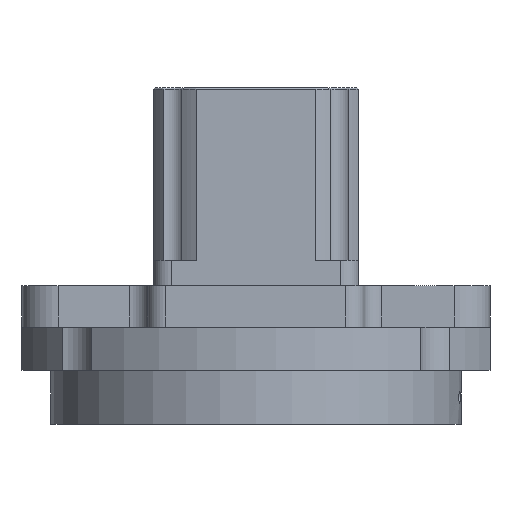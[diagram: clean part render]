
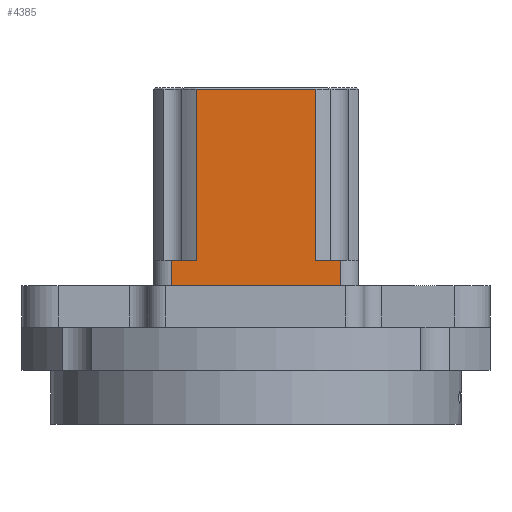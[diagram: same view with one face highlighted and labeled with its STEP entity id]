
A CAD part, front view. The second image highlights one B-rep face of the part: STEP entity #4385.
In plain terms, the highlighted planar face has unit normal (0, -1, 0).
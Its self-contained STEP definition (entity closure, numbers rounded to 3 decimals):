
#141 = DIRECTION ( 'NONE',  ( 0., 1., 0. ) ) ;
#247 = LINE ( 'NONE', #6588, #4882 ) ;
#417 = LINE ( 'NONE', #8116, #2297 ) ;
#430 = ORIENTED_EDGE ( 'NONE', *, *, #7271, .F. ) ;
#455 = CARTESIAN_POINT ( 'NONE',  ( 14.592, -94.689, 167.95 ) ) ;
#913 = ORIENTED_EDGE ( 'NONE', *, *, #5422, .T. ) ;
#1682 = LINE ( 'NONE', #8109, #11250 ) ;
#1706 = FACE_OUTER_BOUND ( 'NONE', #7299, .T. ) ;
#1965 = VECTOR ( 'NONE', #8747, 1000. ) ;
#2025 = VECTOR ( 'NONE', #11984, 1000. ) ;
#2120 = CARTESIAN_POINT ( 'NONE',  ( -37.408, -94.689, 176.45 ) ) ;
#2170 = VERTEX_POINT ( 'NONE', #7085 ) ;
#2224 = CARTESIAN_POINT ( 'NONE',  ( 14.592, -94.689, 169.45 ) ) ;
#2297 = VECTOR ( 'NONE', #2541, 1000. ) ;
#2541 = DIRECTION ( 'NONE',  ( 0., 0., 1. ) ) ;
#2809 = CARTESIAN_POINT ( 'NONE',  ( -25.544, -94.689, 223.95 ) ) ;
#2958 = LINE ( 'NONE', #7424, #2025 ) ;
#3108 = CARTESIAN_POINT ( 'NONE',  ( -37.408, -94.689, 176.45 ) ) ;
#3501 = DIRECTION ( 'NONE',  ( -1., 0., 0. ) ) ;
#4058 = VECTOR ( 'NONE', #8670, 1000. ) ;
#4348 = EDGE_CURVE ( 'NONE', #5046, #6329, #417, .T. ) ;
#4385 = ADVANCED_FACE ( 'NONE', ( #1706 ), #11223, .F. ) ;
#4438 = ORIENTED_EDGE ( 'NONE', *, *, #4490, .F. ) ;
#4490 = EDGE_CURVE ( 'NONE', #2170, #5046, #10694, .T. ) ;
#4882 = VECTOR ( 'NONE', #5660, 1000. ) ;
#4903 = VERTEX_POINT ( 'NONE', #7269 ) ;
#5046 = VERTEX_POINT ( 'NONE', #10182 ) ;
#5112 = EDGE_CURVE ( 'NONE', #11619, #7165, #247, .T. ) ;
#5422 = EDGE_CURVE ( 'NONE', #8367, #6329, #1682, .T. ) ;
#5660 = DIRECTION ( 'NONE',  ( -1., 0., 0. ) ) ;
#5670 = CARTESIAN_POINT ( 'NONE',  ( -37.408, -94.689, 167.95 ) ) ;
#5726 = CARTESIAN_POINT ( 'NONE',  ( -32.408, -94.689, 169.45 ) ) ;
#5919 = EDGE_CURVE ( 'NONE', #2170, #7165, #7478, .T. ) ;
#5948 = CARTESIAN_POINT ( 'NONE',  ( -32.408, -94.689, 167.95 ) ) ;
#6329 = VERTEX_POINT ( 'NONE', #2809 ) ;
#6394 = ORIENTED_EDGE ( 'NONE', *, *, #4348, .F. ) ;
#6514 = EDGE_CURVE ( 'NONE', #11619, #8667, #11496, .T. ) ;
#6588 = CARTESIAN_POINT ( 'NONE',  ( -37.408, -94.689, 169.45 ) ) ;
#6604 = DIRECTION ( 'NONE',  ( 1., 0., 0. ) ) ;
#6721 = DIRECTION ( 'NONE',  ( 1., 0., 0. ) ) ;
#7033 = ORIENTED_EDGE ( 'NONE', *, *, #10437, .F. ) ;
#7085 = CARTESIAN_POINT ( 'NONE',  ( -32.408, -94.689, 176.45 ) ) ;
#7165 = VERTEX_POINT ( 'NONE', #5726 ) ;
#7269 = CARTESIAN_POINT ( 'NONE',  ( 7.728, -94.689, 176.45 ) ) ;
#7271 = EDGE_CURVE ( 'NONE', #4903, #8667, #9260, .T. ) ;
#7299 = EDGE_LOOP ( 'NONE', ( #7033, #913, #6394, #4438, #10608, #7648, #10501, #430 ) ) ;
#7424 = CARTESIAN_POINT ( 'NONE',  ( 7.728, -94.689, 176.45 ) ) ;
#7430 = AXIS2_PLACEMENT_3D ( 'NONE', #5670, #141, #6604 ) ;
#7478 = LINE ( 'NONE', #5948, #1965 ) ;
#7520 = VECTOR ( 'NONE', #6721, 1000. ) ;
#7648 = ORIENTED_EDGE ( 'NONE', *, *, #5112, .F. ) ;
#8109 = CARTESIAN_POINT ( 'NONE',  ( -37.408, -94.689, 223.95 ) ) ;
#8116 = CARTESIAN_POINT ( 'NONE',  ( -25.544, -94.689, 176.45 ) ) ;
#8367 = VERTEX_POINT ( 'NONE', #11035 ) ;
#8667 = VERTEX_POINT ( 'NONE', #11449 ) ;
#8670 = DIRECTION ( 'NONE',  ( 1., 0., 0. ) ) ;
#8747 = DIRECTION ( 'NONE',  ( 0., 0., -1. ) ) ;
#9038 = VECTOR ( 'NONE', #11543, 1000. ) ;
#9260 = LINE ( 'NONE', #3108, #4058 ) ;
#10182 = CARTESIAN_POINT ( 'NONE',  ( -25.544, -94.689, 176.45 ) ) ;
#10437 = EDGE_CURVE ( 'NONE', #8367, #4903, #2958, .T. ) ;
#10501 = ORIENTED_EDGE ( 'NONE', *, *, #6514, .T. ) ;
#10608 = ORIENTED_EDGE ( 'NONE', *, *, #5919, .T. ) ;
#10694 = LINE ( 'NONE', #2120, #7520 ) ;
#11035 = CARTESIAN_POINT ( 'NONE',  ( 7.728, -94.689, 223.95 ) ) ;
#11223 = PLANE ( 'NONE',  #7430 ) ;
#11250 = VECTOR ( 'NONE', #3501, 1000. ) ;
#11449 = CARTESIAN_POINT ( 'NONE',  ( 14.592, -94.689, 176.45 ) ) ;
#11496 = LINE ( 'NONE', #455, #9038 ) ;
#11543 = DIRECTION ( 'NONE',  ( 0., 0., 1. ) ) ;
#11619 = VERTEX_POINT ( 'NONE', #2224 ) ;
#11984 = DIRECTION ( 'NONE',  ( 0., 0., -1. ) ) ;
